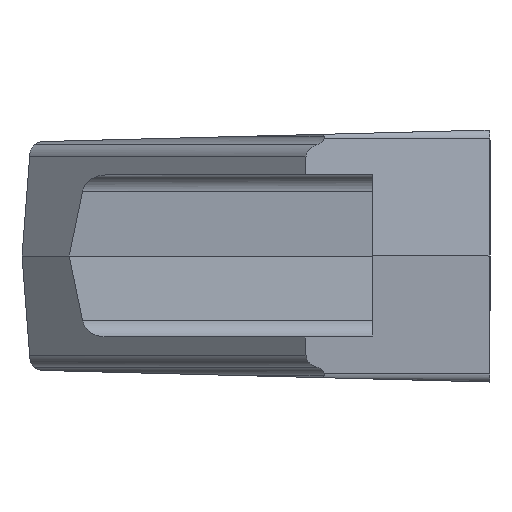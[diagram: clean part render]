
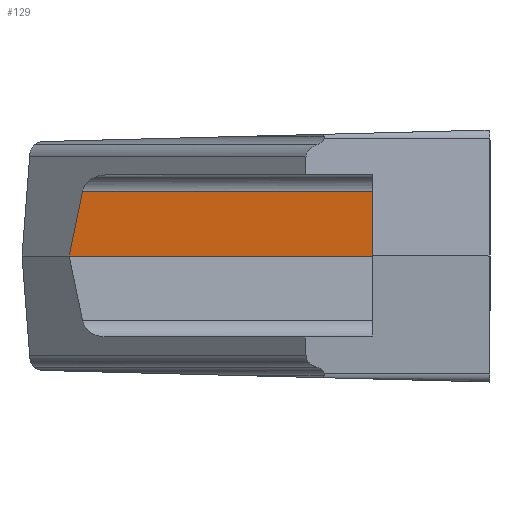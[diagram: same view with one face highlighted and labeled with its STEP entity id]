
A CAD part, front view. The second image highlights one B-rep face of the part: STEP entity #129.
In plain terms, the highlighted planar face has unit normal (-0.025, -0.997, -0.077).
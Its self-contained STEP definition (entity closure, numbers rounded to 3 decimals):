
#129=ADVANCED_FACE('',(#291),#292,.F.);
#291=FACE_OUTER_BOUND('',#503,.T.);
#292=PLANE('',#504);
#503=EDGE_LOOP('',(#1055,#1056,#1057,#1058));
#504=AXIS2_PLACEMENT_3D('',#1059,#1060,#1061);
#1055=ORIENTED_EDGE('',*,*,#1655,.F.);
#1056=ORIENTED_EDGE('',*,*,#1656,.T.);
#1057=ORIENTED_EDGE('',*,*,#1628,.F.);
#1058=ORIENTED_EDGE('',*,*,#1654,.F.);
#1059=CARTESIAN_POINT('',(-62.055,-61.463,0.));
#1060=DIRECTION('',(0.025,0.997,0.077));
#1061=DIRECTION('',(0.952,0.0,-0.307));
#1628=EDGE_CURVE('',#2032,#2034,#2035,.T.);
#1654=EDGE_CURVE('',#2074,#2032,#2076,.T.);
#1655=EDGE_CURVE('',#2077,#2074,#2078,.T.);
#1656=EDGE_CURVE('',#2077,#2034,#2079,.T.);
#2032=VERTEX_POINT('',#2780);
#2034=VERTEX_POINT('',#2782);
#2035=LINE('',#2783,#2784);
#2074=VERTEX_POINT('',#2877);
#2076=LINE('',#2879,#2880);
#2077=VERTEX_POINT('',#2881);
#2078=LINE('',#2882,#2883);
#2079=LINE('',#2884,#2885);
#2780=CARTESIAN_POINT('',(-13.0,-63.229,7.153));
#2782=CARTESIAN_POINT('',(-13.0,-62.679,0.));
#2783=CARTESIAN_POINT('',(-13.0,-62.672,-0.093));
#2784=VECTOR('',#3362,1000.0);
#2877=CARTESIAN_POINT('',(-45.272,-62.429,7.153));
#2879=CARTESIAN_POINT('',(-62.069,-62.013,7.153));
#2880=VECTOR('',#3396,1000.0);
#2881=CARTESIAN_POINT('',(-46.753,-61.842,0.));
#2882=CARTESIAN_POINT('',(-47.385,-61.592,-3.05));
#2883=VECTOR('',#3397,1000.0);
#2884=CARTESIAN_POINT('',(-62.055,-61.463,0.));
#2885=VECTOR('',#3398,1000.0);
#3362=DIRECTION('',(-0.0,0.077,-0.997));
#3396=DIRECTION('',(1.,-0.025,0.0));
#3397=DIRECTION('',(0.202,-0.08,0.976));
#3398=DIRECTION('',(1.,-0.025,0.0));
